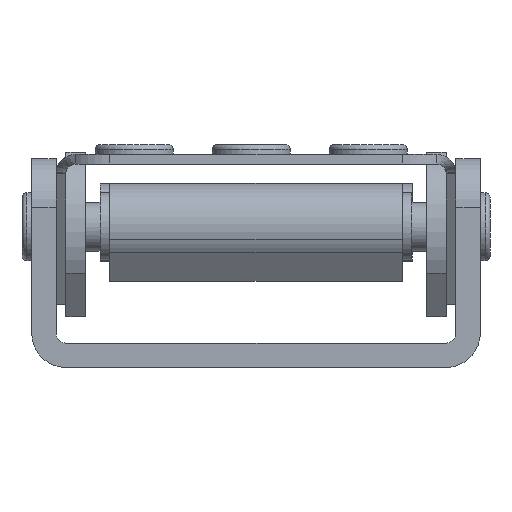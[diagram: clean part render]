
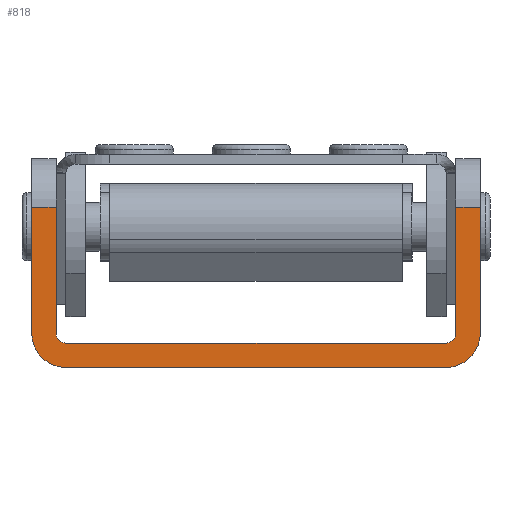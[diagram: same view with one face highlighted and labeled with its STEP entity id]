
A CAD part, left-side view. The second image highlights one B-rep face of the part: STEP entity #818.
In plain terms, the highlighted planar face has unit normal (-1, 0, 0) as drawn and (0, 1, 0) by its records, which use the part's own axes.
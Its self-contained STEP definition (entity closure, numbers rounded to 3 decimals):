
#162=CARTESIAN_POINT('',(-19.5,19.819,15.179));
#163=VERTEX_POINT('',#162);
#171=CARTESIAN_POINT('',(-22.,19.819,15.179));
#172=VERTEX_POINT('',#171);
#173=CARTESIAN_POINT('',(-22.,19.819,15.179));
#174=DIRECTION('',(1.0,0.0,0.0));
#175=VECTOR('',#174,2.5);
#176=LINE('',#173,#175);
#177=EDGE_CURVE('',#172,#163,#176,.T.);
#204=CARTESIAN_POINT('',(24.0,19.819,15.179));
#205=VERTEX_POINT('',#204);
#213=CARTESIAN_POINT('',(21.5,19.819,15.179));
#214=VERTEX_POINT('',#213);
#215=CARTESIAN_POINT('',(24.0,19.819,15.179));
#216=DIRECTION('',(-1.0,0.0,0.0));
#217=VECTOR('',#216,2.5);
#218=LINE('',#215,#217);
#219=EDGE_CURVE('',#205,#214,#218,.T.);
#236=CARTESIAN_POINT('',(21.168,19.819,-1.186));
#237=VERTEX_POINT('',#236);
#246=CARTESIAN_POINT('',(24.,19.819,2.25));
#247=VERTEX_POINT('',#246);
#248=CARTESIAN_POINT('',(20.5,19.819,2.25));
#249=DIRECTION('',(0.0,-1.0,0.0));
#250=DIRECTION('',(0.0,0.0,-1.0));
#251=AXIS2_PLACEMENT_3D('',#248,#249,#250);
#252=CIRCLE('',#251,3.5);
#253=EDGE_CURVE('',#237,#247,#252,.T.);
#280=CARTESIAN_POINT('',(20.691,19.819,1.268));
#281=VERTEX_POINT('',#280);
#297=CARTESIAN_POINT('',(21.5,19.819,2.25));
#298=VERTEX_POINT('',#297);
#305=CARTESIAN_POINT('',(20.5,19.819,2.25));
#306=DIRECTION('',(0.0,-1.0,0.0));
#307=DIRECTION('',(0.0,0.0,-1.0));
#308=AXIS2_PLACEMENT_3D('',#305,#306,#307);
#309=CIRCLE('',#308,1.0);
#310=EDGE_CURVE('',#281,#298,#309,.T.);
#320=CARTESIAN_POINT('',(-21.936,19.819,1.582));
#321=VERTEX_POINT('',#320);
#330=CARTESIAN_POINT('',(-18.5,19.819,-1.25));
#331=VERTEX_POINT('',#330);
#332=CARTESIAN_POINT('',(-18.5,19.819,2.25));
#333=DIRECTION('',(0.0,-1.0,0.0));
#334=DIRECTION('',(-1.0,0.0,0.0));
#335=AXIS2_PLACEMENT_3D('',#332,#333,#334);
#336=CIRCLE('',#335,3.5);
#337=EDGE_CURVE('',#321,#331,#336,.T.);
#364=CARTESIAN_POINT('',(-19.482,19.819,2.059));
#365=VERTEX_POINT('',#364);
#381=CARTESIAN_POINT('',(-18.5,19.819,1.25));
#382=VERTEX_POINT('',#381);
#389=CARTESIAN_POINT('',(-18.5,19.819,2.25));
#390=DIRECTION('',(0.0,-1.0,0.0));
#391=DIRECTION('',(-1.0,0.0,0.0));
#392=AXIS2_PLACEMENT_3D('',#389,#390,#391);
#393=CIRCLE('',#392,1.0);
#394=EDGE_CURVE('',#365,#382,#393,.T.);
#669=CARTESIAN_POINT('',(-19.5,19.819,2.25));
#670=VERTEX_POINT('',#669);
#671=CARTESIAN_POINT('',(-18.5,19.819,2.25));
#672=DIRECTION('',(0.0,-1.0,0.0));
#673=DIRECTION('',(-1.0,0.0,0.0));
#674=AXIS2_PLACEMENT_3D('',#671,#672,#673);
#675=CIRCLE('',#674,1.0);
#676=EDGE_CURVE('',#670,#365,#675,.T.);
#703=CARTESIAN_POINT('',(-22.,19.819,2.25));
#704=VERTEX_POINT('',#703);
#735=CARTESIAN_POINT('',(-22.,19.819,15.179));
#736=DIRECTION('',(0.0,0.0,-1.0));
#737=VECTOR('',#736,12.929);
#738=LINE('',#735,#737);
#739=EDGE_CURVE('',#172,#704,#738,.T.);
#748=CARTESIAN_POINT('',(-33.0,19.819,-1.25));
#749=DIRECTION('',(0.0,1.0,0.0));
#750=DIRECTION('',(0.0,0.0,1.0));
#751=AXIS2_PLACEMENT_3D('',#748,#749,#750);
#752=PLANE('',#751);
#753=CARTESIAN_POINT('',(20.5,19.819,1.25));
#754=VERTEX_POINT('',#753);
#755=CARTESIAN_POINT('',(-18.5,19.819,1.25));
#756=DIRECTION('',(1.0,0.0,0.0));
#757=VECTOR('',#756,39.);
#758=LINE('',#755,#757);
#759=EDGE_CURVE('',#382,#754,#758,.T.);
#760=ORIENTED_EDGE('',*,*,#759,.T.);
#761=CARTESIAN_POINT('',(20.5,19.819,2.25));
#762=DIRECTION('',(0.0,-1.0,0.0));
#763=DIRECTION('',(0.0,0.0,-1.0));
#764=AXIS2_PLACEMENT_3D('',#761,#762,#763);
#765=CIRCLE('',#764,1.0);
#766=EDGE_CURVE('',#754,#281,#765,.T.);
#767=ORIENTED_EDGE('',*,*,#766,.T.);
#768=ORIENTED_EDGE('',*,*,#310,.T.);
#769=CARTESIAN_POINT('',(21.5,19.819,2.25));
#770=DIRECTION('',(0.0,0.0,1.0));
#771=VECTOR('',#770,12.929);
#772=LINE('',#769,#771);
#773=EDGE_CURVE('',#298,#214,#772,.T.);
#774=ORIENTED_EDGE('',*,*,#773,.T.);
#775=ORIENTED_EDGE('',*,*,#219,.F.);
#776=CARTESIAN_POINT('',(24.,19.819,2.25));
#777=DIRECTION('',(0.0,0.0,1.0));
#778=VECTOR('',#777,12.929);
#779=LINE('',#776,#778);
#780=EDGE_CURVE('',#247,#205,#779,.T.);
#781=ORIENTED_EDGE('',*,*,#780,.F.);
#782=ORIENTED_EDGE('',*,*,#253,.F.);
#783=CARTESIAN_POINT('',(20.5,19.819,-1.25));
#784=VERTEX_POINT('',#783);
#785=CARTESIAN_POINT('',(20.5,19.819,2.25));
#786=DIRECTION('',(0.0,-1.0,0.0));
#787=DIRECTION('',(0.0,0.0,-1.0));
#788=AXIS2_PLACEMENT_3D('',#785,#786,#787);
#789=CIRCLE('',#788,3.5);
#790=EDGE_CURVE('',#784,#237,#789,.T.);
#791=ORIENTED_EDGE('',*,*,#790,.F.);
#792=CARTESIAN_POINT('',(-18.5,19.819,-1.25));
#793=DIRECTION('',(1.0,0.0,0.0));
#794=VECTOR('',#793,39.);
#795=LINE('',#792,#794);
#796=EDGE_CURVE('',#331,#784,#795,.T.);
#797=ORIENTED_EDGE('',*,*,#796,.F.);
#798=ORIENTED_EDGE('',*,*,#337,.F.);
#799=CARTESIAN_POINT('',(-18.5,19.819,2.25));
#800=DIRECTION('',(0.0,-1.0,0.0));
#801=DIRECTION('',(-1.0,0.0,0.0));
#802=AXIS2_PLACEMENT_3D('',#799,#800,#801);
#803=CIRCLE('',#802,3.5);
#804=EDGE_CURVE('',#704,#321,#803,.T.);
#805=ORIENTED_EDGE('',*,*,#804,.F.);
#806=ORIENTED_EDGE('',*,*,#739,.F.);
#807=ORIENTED_EDGE('',*,*,#177,.T.);
#808=CARTESIAN_POINT('',(-19.5,19.819,15.179));
#809=DIRECTION('',(0.0,0.0,-1.0));
#810=VECTOR('',#809,12.929);
#811=LINE('',#808,#810);
#812=EDGE_CURVE('',#163,#670,#811,.T.);
#813=ORIENTED_EDGE('',*,*,#812,.T.);
#814=ORIENTED_EDGE('',*,*,#676,.T.);
#815=ORIENTED_EDGE('',*,*,#394,.T.);
#816=EDGE_LOOP('',(#760,#767,#768,#774,#775,#781,#782,#791,#797,#798,#805,#806,#807,#813,#814,#815));
#817=FACE_OUTER_BOUND('',#816,.T.);
#818=ADVANCED_FACE('',(#817),#752,.T.);
